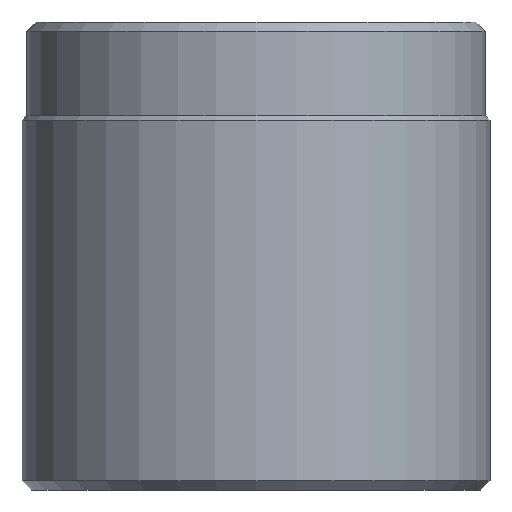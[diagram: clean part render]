
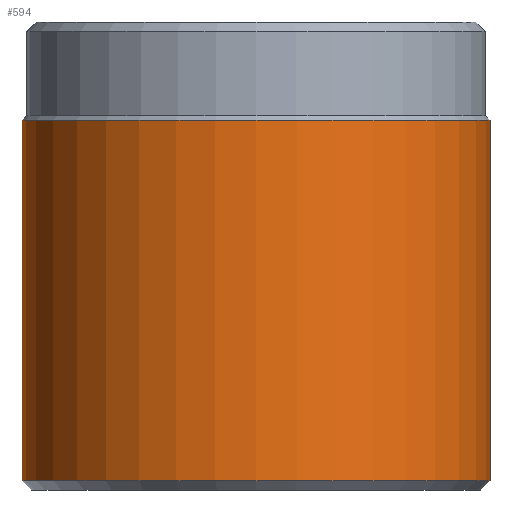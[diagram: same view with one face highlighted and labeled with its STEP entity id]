
A CAD part, front view. The second image highlights one B-rep face of the part: STEP entity #594.
In plain terms, the highlighted cylindrical face has radius 25 mm (diameter 50 mm), a partial arc.
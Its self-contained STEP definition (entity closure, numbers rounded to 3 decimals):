
#125=VERTEX_POINT(' ',#126);
#126=CARTESIAN_POINT('',(-25.,0.,1.));
#127=VERTEX_POINT(' ',#128);
#128=CARTESIAN_POINT('',(25.,0.,1.));
#129=VERTEX_POINT(' ',#130);
#130=CARTESIAN_POINT('',(-25.,0.,39.5));
#131=VERTEX_POINT(' ',#132);
#132=CARTESIAN_POINT('',(25.,0.,39.5));
#321=CIRCLE('',#322,25.);
#322=AXIS2_PLACEMENT_3D('',#323,#324,#325);
#323=CARTESIAN_POINT('',(0.,0.,1.));
#324=DIRECTION('',(0.,0.,1.));
#325=DIRECTION('',(0.,1.,0.));
#326=EDGE_CURVE(' ',#125,#127,#321,.T.);
#327=LINE('',#328,#329);
#328=CARTESIAN_POINT('',(-25.,0.,1.));
#329=VECTOR('',#330,1.);
#330=DIRECTION('',(0.,0.,1.));
#331=EDGE_CURVE(' ',#125,#129,#327,.T.);
#338=LINE('',#339,#340);
#339=CARTESIAN_POINT('',(25.,0.,1.));
#340=VECTOR('',#341,1.);
#341=DIRECTION('',(0.,0.,1.));
#342=EDGE_CURVE(' ',#127,#131,#338,.T.);
#343=CIRCLE('',#344,25.);
#344=AXIS2_PLACEMENT_3D('',#345,#346,#347);
#345=CARTESIAN_POINT('',(0.,0.,39.5));
#346=DIRECTION('',(0.,0.,1.));
#347=DIRECTION('',(0.,1.,0.));
#348=EDGE_CURVE(' ',#129,#131,#343,.T.);
#583=ORIENTED_EDGE('',*,*,#331,.F.);
#584=ORIENTED_EDGE('',*,*,#326,.T.);
#585=ORIENTED_EDGE('',*,*,#342,.T.);
#586=ORIENTED_EDGE('',*,*,#348,.F.);
#587=EDGE_LOOP('',(#583,#584,#585,#586));
#588=FACE_OUTER_BOUND('',#587,.T.);
#589=CYLINDRICAL_SURFACE('',#590,25.);
#590=AXIS2_PLACEMENT_3D('',#591,#592,#593);
#591=CARTESIAN_POINT('',(0.,0.,1.));
#592=DIRECTION('',(0.,0.,1.));
#593=DIRECTION('',(0.,1.,0.));
#594=ADVANCED_FACE('',(#588),#589,.T.);
